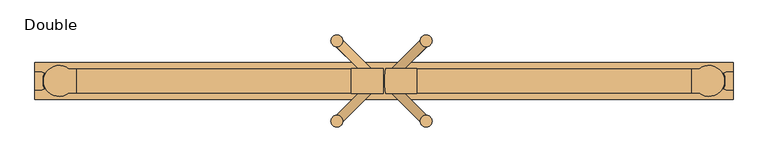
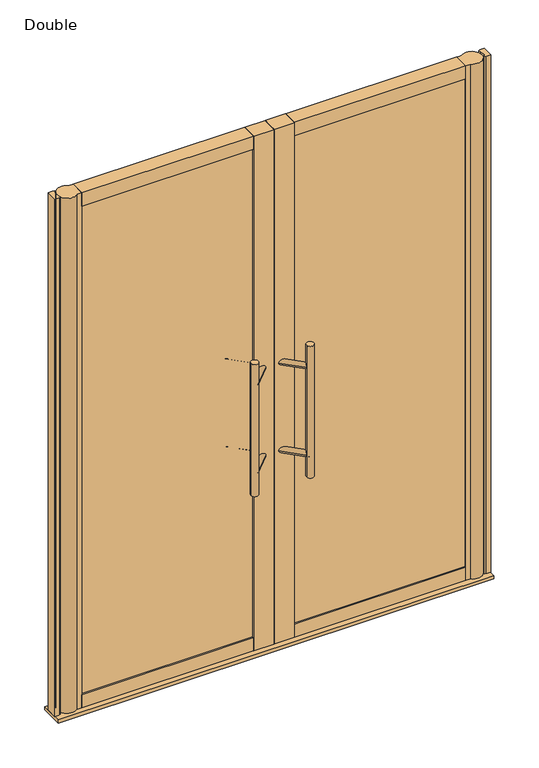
"""IFC4 building model written with IfcOpenShell, lengths in millimetres: door geometry, SMARTS_SmartWallCW : Double."""

from ifc_helpers import new_model, si_unit, point, frame, frame_2d, origin, origin_with_axes, place, context, project, spatial, polyline, circle_curve, ellipse_curve, trimmed, segment, composite_curve, outline, extrude, source, transform, mapped, element, save
from ifc_brep_helpers import plane_surface, cylinder_surface, advanced_brep


def double_5052222a(model_context):
    return source(origin(), model_context, "Body", "SolidModel", [
        advanced_brep(
        [(-134.8682666, -98.8621855, 1295.0), (-117.1905971, -116.539855, 1295.0), (-34.1055503, -33.4548082, 1295.0), (-69.4608894, -33.4548082, 1295.0)],
        [
            (0, 1, circle_curve(frame((-126.0294319, -107.7010203, 1295.0), z_axis=(-0.707106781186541, -0.7071067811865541, 0.0), x_axis=(0.7071067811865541, -0.707106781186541, 0.0)), 12.5)),
            (1, 0, circle_curve(frame((-126.0294319, -107.7010203, 1295.0), z_axis=(-0.707106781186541, -0.7071067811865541, 0.0), x_axis=(0.7071067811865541, -0.707106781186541, 0.0)), 12.5)),
            (1, 2),
            (2, 3, ellipse_curve(frame((-51.7832198, -33.4548082, 1295.0), z_axis=(0.0, -1.0, 0.0), x_axis=(1.0, 0.0, 0.0)), 17.6776695, 12.5)),
            (3, 0),
            (3, 2, ellipse_curve(frame((-51.7832198, -33.4548082, 1295.0), z_axis=(0.0, -1.0, 0.0), x_axis=(1.0, 0.0, 0.0)), 17.6776695, 12.5)),
        ],
        [
            plane_surface(frame((-126.0294319, -107.7010203, 1095.0), z_axis=(-0.707106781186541, -0.7071067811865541, 0.0), x_axis=(0.0, 0.0, 1.0))),
            cylinder_surface(frame((-37.6410842, -19.3126726, 1295.0), z_axis=(0.707106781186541, 0.7071067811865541, 0.0), x_axis=(0.7071067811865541, -0.707106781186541, 0.0)), 12.5),
            plane_surface(frame((-27.4315037, -33.4548082, 875.0), z_axis=(0.0, 1.0, 0.0), x_axis=(1.0, 0.0, 0.0))),
        ],
        [
            (0, [[1, 2]]),
            (1, [[-2, 3, 4, 5]]),
            (1, [[-1, -5, 6, -3]]),
            (2, [[-4, -6]]),
        ],
    ),
        advanced_brep(
        [(-117.1905971, 116.6302385, 1295.0), (-134.8682666, 98.952569, 1295.0), (-34.1055503, 33.5451918, 1295.0), (-69.4608894, 33.5451918, 1295.0)],
        [
            (0, 1, circle_curve(frame((-126.0294319, 107.7914038, 1295.0), z_axis=(-0.7071067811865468, 0.7071067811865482, 0.0), x_axis=(-0.7071067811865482, -0.7071067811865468, 0.0)), 12.5)),
            (1, 0, circle_curve(frame((-126.0294319, 107.7914038, 1295.0), z_axis=(-0.7071067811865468, 0.7071067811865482, 0.0), x_axis=(-0.7071067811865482, -0.7071067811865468, 0.0)), 12.5)),
            (0, 2),
            (2, 3, ellipse_curve(frame((-51.7832198, 33.5451918, 1295.0), z_axis=(0.0, 1.0, 0.0), x_axis=(1.0, 0.0, 0.0)), 17.6776695, 12.5)),
            (3, 1),
            (3, 2, ellipse_curve(frame((-51.7832198, 33.5451918, 1295.0), z_axis=(0.0, 1.0, 0.0), x_axis=(1.0, 0.0, 0.0)), 17.6776695, 12.5)),
        ],
        [
            plane_surface(frame((-126.0294319, 107.7914038, 1095.0), z_axis=(-0.7071067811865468, 0.7071067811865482, 0.0), x_axis=(0.0, 0.0, 1.0))),
            cylinder_surface(frame((-37.6410842, 19.4030561, 1295.0), z_axis=(0.7071067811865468, -0.7071067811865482, 0.0), x_axis=(-0.7071067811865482, -0.7071067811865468, 0.0)), 12.5),
            plane_surface(frame((-23.8736253, 33.5451918, 872.7211233), z_axis=(0.0, -1.0, 0.0), x_axis=(-1.0, 0.0, 0.0))),
        ],
        [
            (0, [[1, 2]]),
            (1, [[-1, 3, 4, 5]]),
            (1, [[-2, -5, 6, -3]]),
            (2, [[-4, -6]]),
        ],
    ),
        advanced_brep(
        [(-117.1905971, 116.6302385, 895.0), (-134.8682666, 98.952569, 895.0), (-34.1055503, 33.5451918, 895.0), (-69.4608894, 33.5451918, 895.0)],
        [
            (0, 1, circle_curve(frame((-126.0294319, 107.7914038, 895.0), z_axis=(-0.7071067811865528, 0.7071067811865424, 0.0), x_axis=(-0.7071067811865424, -0.7071067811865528, 0.0)), 12.5)),
            (1, 0, circle_curve(frame((-126.0294319, 107.7914038, 895.0), z_axis=(-0.7071067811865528, 0.7071067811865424, 0.0), x_axis=(-0.7071067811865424, -0.7071067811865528, 0.0)), 12.5)),
            (0, 2),
            (2, 3, ellipse_curve(frame((-51.7832198, 33.5451918, 895.0), z_axis=(0.0, 1.0, 0.0), x_axis=(1.0, 0.0, 0.0)), 17.6776695, 12.5)),
            (3, 1),
            (3, 2, ellipse_curve(frame((-51.7832198, 33.5451918, 895.0), z_axis=(0.0, 1.0, 0.0), x_axis=(1.0, 0.0, 0.0)), 17.6776695, 12.5)),
        ],
        [
            plane_surface(frame((-126.0294319, 107.7914038, 695.0), z_axis=(-0.7071067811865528, 0.7071067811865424, 0.0), x_axis=(0.0, 0.0, 1.0))),
            cylinder_surface(frame((-37.6410842, 19.4030561, 895.0), z_axis=(0.7071067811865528, -0.7071067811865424, 0.0), x_axis=(-0.7071067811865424, -0.7071067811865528, 0.0)), 12.5),
            plane_surface(frame((-23.8736253, 33.5451918, 872.7211233), z_axis=(0.0, -1.0, 0.0), x_axis=(-1.0, 0.0, 0.0))),
        ],
        [
            (0, [[1, 2]]),
            (1, [[-1, 3, 4, 5]]),
            (1, [[-2, -5, 6, -3]]),
            (2, [[-4, -6]]),
        ],
    ),
        advanced_brep(
        [(-134.8682666, -98.8621855, 895.0), (-117.1905971, -116.539855, 895.0), (-34.1055503, -33.4548082, 895.0), (-69.4608894, -33.4548082, 895.0)],
        [
            (0, 1, circle_curve(frame((-126.0294319, -107.7010203, 895.0), z_axis=(-0.707106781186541, -0.707106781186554, 0.0), x_axis=(0.707106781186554, -0.707106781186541, 0.0)), 12.5)),
            (1, 0, circle_curve(frame((-126.0294319, -107.7010203, 895.0), z_axis=(-0.707106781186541, -0.707106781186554, 0.0), x_axis=(0.707106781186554, -0.707106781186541, 0.0)), 12.5)),
            (1, 2),
            (2, 3, ellipse_curve(frame((-51.7832198, -33.4548082, 895.0), z_axis=(0.0, -1.0, 0.0), x_axis=(1.0, 0.0, 0.0)), 17.6776695, 12.5)),
            (3, 0),
            (3, 2, ellipse_curve(frame((-51.7832198, -33.4548082, 895.0), z_axis=(0.0, -1.0, 0.0), x_axis=(1.0, 0.0, 0.0)), 17.6776695, 12.5)),
        ],
        [
            plane_surface(frame((-126.0294319, -107.7010203, 695.0), z_axis=(-0.707106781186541, -0.707106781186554, 0.0), x_axis=(0.0, 0.0, 1.0))),
            cylinder_surface(frame((-37.6410842, -19.3126726, 895.0), z_axis=(0.707106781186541, 0.707106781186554, 0.0), x_axis=(0.707106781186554, -0.707106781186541, 0.0)), 12.5),
            plane_surface(frame((-27.4315037, -33.4548082, 875.0), z_axis=(0.0, 1.0, 0.0), x_axis=(1.0, 0.0, 0.0))),
        ],
        [
            (0, [[1, 2]]),
            (1, [[-2, 3, 4, 5]]),
            (1, [[-1, -5, 6, -3]]),
            (2, [[-4, -6]]),
        ],
    ),
        extrude(outline(composite_curve([segment(trimmed(circle_curve(frame_2d((-126.7832198, 108.5451918)), 16.0), [point((-110.7832198, 108.5451918))], [point((-142.7832198, 108.5451918))], False, "CARTESIAN"), True, "CONTINUOUS"), segment(trimmed(circle_curve(frame_2d((-126.7832198, 108.5451918)), 16.0), [point((-142.7832198, 108.5451918))], [point((-110.7832198, 108.5451918))], False, "CARTESIAN"), True, "CONTINUOUS")], self_intersect=False)), frame((0.0, 0.0, 795.0), z_axis=(0.0, 0.0, 1.0), x_axis=(1.0, 0.0, 0.0)), (0.0, 0.0, 1.0), 600.0),
        extrude(outline(composite_curve([segment(trimmed(circle_curve(frame_2d((-126.7832198, -108.4548082)), 16.0), [point((-110.7832198, -108.4548082))], [point((-142.7832198, -108.4548082))], False, "CARTESIAN"), True, "CONTINUOUS"), segment(trimmed(circle_curve(frame_2d((-126.7832198, -108.4548082)), 16.0), [point((-142.7832198, -108.4548082))], [point((-110.7832198, -108.4548082))], False, "CARTESIAN"), True, "CONTINUOUS")], self_intersect=False)), frame((0.0, 0.0, 795.0), z_axis=(0.0, 0.0, 1.0), x_axis=(1.0, 0.0, 0.0)), (0.0, 0.0, 1.0), 600.0),
        advanced_brep(
        [(121.3006865, -98.8621855, 1295.0), (103.623017, -116.539855, 1295.0), (55.8933093, -33.4548082, 1295.0), (20.5379702, -33.4548082, 1295.0)],
        [
            (0, 1, circle_curve(frame((112.4618518, -107.7010203, 1295.0), z_axis=(0.7071067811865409, -0.7071067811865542, 0.0), x_axis=(-0.7071067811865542, -0.7071067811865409, 0.0)), 12.5)),
            (1, 0, circle_curve(frame((112.4618518, -107.7010203, 1295.0), z_axis=(0.7071067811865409, -0.7071067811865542, 0.0), x_axis=(-0.7071067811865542, -0.7071067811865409, 0.0)), 12.5)),
            (0, 2),
            (2, 3, ellipse_curve(frame((38.2156397, -33.4548082, 1295.0), z_axis=(0.0, -1.0, 0.0), x_axis=(-1.0, 0.0, 0.0)), 17.6776695, 12.5)),
            (3, 1),
            (3, 2, ellipse_curve(frame((38.2156397, -33.4548082, 1295.0), z_axis=(0.0, -1.0, 0.0), x_axis=(-1.0, 0.0, 0.0)), 17.6776695, 12.5)),
        ],
        [
            plane_surface(frame((112.4618518, -107.7010203, 1095.0), z_axis=(0.7071067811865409, -0.7071067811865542, 0.0), x_axis=(0.0, 0.0, 1.0))),
            cylinder_surface(frame((24.0735041, -19.3126726, 1295.0), z_axis=(-0.7071067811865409, 0.7071067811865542, 0.0), x_axis=(-0.7071067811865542, -0.7071067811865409, 0.0)), 12.5),
            plane_surface(frame((13.8639236, -33.4548082, 875.0), z_axis=(0.0, 1.0, 0.0), x_axis=(-1.0, 0.0, 0.0))),
        ],
        [
            (0, [[1, 2]]),
            (1, [[3, 4, 5, -1]]),
            (1, [[-5, 6, -3, -2]]),
            (2, [[-6, -4]]),
        ],
    ),
        advanced_brep(
        [(103.623017, 116.6302385, 1295.0), (121.3006865, 98.952569, 1295.0), (55.8933093, 33.5451918, 1295.0), (20.5379702, 33.5451918, 1295.0)],
        [
            (0, 1, circle_curve(frame((112.4618518, 107.7914038, 1295.0), z_axis=(0.7071067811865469, 0.7071067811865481, 0.0), x_axis=(0.7071067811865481, -0.7071067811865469, 0.0)), 12.5)),
            (1, 0, circle_curve(frame((112.4618518, 107.7914038, 1295.0), z_axis=(0.7071067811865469, 0.7071067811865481, 0.0), x_axis=(0.7071067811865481, -0.7071067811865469, 0.0)), 12.5)),
            (1, 2),
            (2, 3, ellipse_curve(frame((38.2156397, 33.5451918, 1295.0), z_axis=(0.0, 1.0, 0.0), x_axis=(-1.0, 0.0, 0.0)), 17.6776695, 12.5)),
            (3, 0),
            (3, 2, ellipse_curve(frame((38.2156397, 33.5451918, 1295.0), z_axis=(0.0, 1.0, 0.0), x_axis=(-1.0, 0.0, 0.0)), 17.6776695, 12.5)),
        ],
        [
            plane_surface(frame((112.4618518, 107.7914038, 1095.0), z_axis=(0.7071067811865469, 0.7071067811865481, 0.0), x_axis=(0.0, 0.0, 1.0))),
            cylinder_surface(frame((24.0735041, 19.4030561, 1295.0), z_axis=(-0.7071067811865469, -0.7071067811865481, 0.0), x_axis=(0.7071067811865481, -0.7071067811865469, 0.0)), 12.5),
            plane_surface(frame((10.3060452, 33.5451918, 872.7211233), z_axis=(0.0, -1.0, 0.0), x_axis=(1.0, 0.0, 0.0))),
        ],
        [
            (0, [[1, 2]]),
            (1, [[3, 4, 5, -2]]),
            (1, [[-5, 6, -3, -1]]),
            (2, [[-6, -4]]),
        ],
    ),
        advanced_brep(
        [(103.623017, 116.6302385, 895.0), (121.3006865, 98.952569, 895.0), (55.8933093, 33.5451918, 895.0), (20.5379702, 33.5451918, 895.0)],
        [
            (0, 1, circle_curve(frame((112.4618518, 107.7914038, 895.0), z_axis=(0.7071067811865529, 0.7071067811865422, 0.0), x_axis=(0.7071067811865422, -0.7071067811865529, 0.0)), 12.5)),
            (1, 0, circle_curve(frame((112.4618518, 107.7914038, 895.0), z_axis=(0.7071067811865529, 0.7071067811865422, 0.0), x_axis=(0.7071067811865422, -0.7071067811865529, 0.0)), 12.5)),
            (1, 2),
            (2, 3, ellipse_curve(frame((38.2156397, 33.5451918, 895.0), z_axis=(0.0, 1.0, 0.0), x_axis=(-1.0, 0.0, 0.0)), 17.6776695, 12.5)),
            (3, 0),
            (3, 2, ellipse_curve(frame((38.2156397, 33.5451918, 895.0), z_axis=(0.0, 1.0, 0.0), x_axis=(-1.0, 0.0, 0.0)), 17.6776695, 12.5)),
        ],
        [
            plane_surface(frame((112.4618518, 107.7914038, 695.0), z_axis=(0.7071067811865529, 0.7071067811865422, 0.0), x_axis=(0.0, 0.0, 1.0))),
            cylinder_surface(frame((24.0735041, 19.4030561, 895.0), z_axis=(-0.7071067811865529, -0.7071067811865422, 0.0), x_axis=(0.7071067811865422, -0.7071067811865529, 0.0)), 12.5),
            plane_surface(frame((10.3060452, 33.5451918, 872.7211233), z_axis=(0.0, -1.0, 0.0), x_axis=(1.0, 0.0, 0.0))),
        ],
        [
            (0, [[1, 2]]),
            (1, [[3, 4, 5, -2]]),
            (1, [[-5, 6, -3, -1]]),
            (2, [[-6, -4]]),
        ],
    ),
        advanced_brep(
        [(121.3006865, -98.8621855, 895.0), (103.623017, -116.539855, 895.0), (55.8933093, -33.4548082, 895.0), (20.5379702, -33.4548082, 895.0)],
        [
            (0, 1, circle_curve(frame((112.4618518, -107.7010203, 895.0), z_axis=(0.7071067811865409, -0.7071067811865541, 0.0), x_axis=(-0.7071067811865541, -0.7071067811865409, 0.0)), 12.5)),
            (1, 0, circle_curve(frame((112.4618518, -107.7010203, 895.0), z_axis=(0.7071067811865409, -0.7071067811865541, 0.0), x_axis=(-0.7071067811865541, -0.7071067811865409, 0.0)), 12.5)),
            (0, 2),
            (2, 3, ellipse_curve(frame((38.2156397, -33.4548082, 895.0), z_axis=(0.0, -1.0, 0.0), x_axis=(-1.0, 0.0, 0.0)), 17.6776695, 12.5)),
            (3, 1),
            (3, 2, ellipse_curve(frame((38.2156397, -33.4548082, 895.0), z_axis=(0.0, -1.0, 0.0), x_axis=(-1.0, 0.0, 0.0)), 17.6776695, 12.5)),
        ],
        [
            plane_surface(frame((112.4618518, -107.7010203, 695.0), z_axis=(0.7071067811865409, -0.7071067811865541, 0.0), x_axis=(0.0, 0.0, 1.0))),
            cylinder_surface(frame((24.0735041, -19.3126726, 895.0), z_axis=(-0.7071067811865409, 0.7071067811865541, 0.0), x_axis=(-0.7071067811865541, -0.7071067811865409, 0.0)), 12.5),
            plane_surface(frame((13.8639236, -33.4548082, 875.0), z_axis=(0.0, 1.0, 0.0), x_axis=(-1.0, 0.0, 0.0))),
        ],
        [
            (0, [[1, 2]]),
            (1, [[3, 4, 5, -1]]),
            (1, [[-5, 6, -3, -2]]),
            (2, [[-6, -4]]),
        ],
    ),
        extrude(outline(composite_curve([segment(trimmed(circle_curve(frame_2d((113.2156397, 108.5451918)), 16.0), [point((97.2156397, 108.5451918))], [point((129.2156397, 108.5451918))], False, "CARTESIAN"), True, "CONTINUOUS"), segment(trimmed(circle_curve(frame_2d((113.2156397, 108.5451918)), 16.0), [point((129.2156397, 108.5451918))], [point((97.2156397, 108.5451918))], False, "CARTESIAN"), True, "CONTINUOUS")], self_intersect=False)), frame((0.0, 0.0, 795.0), z_axis=(0.0, 0.0, 1.0), x_axis=(1.0, 0.0, 0.0)), (0.0, 0.0, 1.0), 600.0),
        extrude(outline(composite_curve([segment(trimmed(circle_curve(frame_2d((113.2156397, -108.4548082)), 16.0), [point((97.2156397, -108.4548082))], [point((129.2156397, -108.4548082))], False, "CARTESIAN"), True, "CONTINUOUS"), segment(trimmed(circle_curve(frame_2d((113.2156397, -108.4548082)), 16.0), [point((129.2156397, -108.4548082))], [point((97.2156397, -108.4548082))], False, "CARTESIAN"), True, "CONTINUOUS")], self_intersect=False)), frame((0.0, 0.0, 795.0), z_axis=(0.0, 0.0, 1.0), x_axis=(1.0, 0.0, 0.0)), (0.0, 0.0, 1.0), 600.0),
        extrude(outline(polyline([(-939.1595001, -24.49833), (-939.1595001, 24.50167), (-921.3504982, 24.50167), (-914.0660793, 21.4096176), (-918.129683, 11.8363671), (-918.129683, -11.8330271), (-914.0660793, -21.4062776), (-921.3504982, -24.49833), (-939.1595001, -24.49833)])), frame((0.0, 0.0, 15.0), z_axis=(0.0, 0.0, 1.0), x_axis=(1.0, 0.0, 0.0)), (0.0, 0.0, 1.0), 2358.5),
        extrude(outline(polyline([(939.1595001, 24.50167), (939.1595001, -24.49833), (921.3504982, -24.49833), (914.0660793, -21.4062776), (918.129683, -11.8330271), (918.129683, 11.8363671), (914.0660793, 21.4096176), (921.3504982, 24.50167), (939.1595001, 24.50167)])), origin_with_axes(), (0.0, 0.0, 1.0), 2373.5),
        extrude(outline(polyline([(-88.2156397, -26.2428114), (-828.2009533, -26.2428114), (-828.2009533, 1.7571886), (-88.2156397, 1.7571886), (-88.2156397, -26.2428114)])), frame((0.0, 0.0, 81.0), z_axis=(0.0, 0.0, 1.0), x_axis=(1.0, 0.0, 0.0)), (0.0, 0.0, 1.0), 2226.5),
        extrude(outline(polyline([(828.2009533, -26.2428114), (88.2, -26.2428114), (88.2, 1.7571886), (828.2009533, 1.7571886), (828.2009533, -26.2428114)])), frame((0.0, 0.0, 81.0), z_axis=(0.0, 0.0, 1.0), x_axis=(1.0, 0.0, 0.0)), (0.0, 0.0, 1.0), 2226.5),
        extrude(outline(composite_curve([segment(polyline([(-848.1043345, 32.264458), (-828.1622626, 32.264458), (-828.1622626, -32.4668875), (-848.3488684, -32.5314047)]), True, "CONTINUOUS"), segment(trimmed(circle_curve(frame_2d((-874.1611251, -0.0355987)), 41.5), [point((-848.3488684, -32.5314047))], [point((-848.1043345, 32.264458))], False, "CARTESIAN"), True, "CONTINUOUS")], self_intersect=False)), frame((0.0, 0.0, 21.0), z_axis=(0.0, 0.0, 1.0), x_axis=(1.0, 0.0, 0.0)), (0.0, 0.0, 1.0), 2346.5),
        extrude(outline(polyline([(4.3645091, -33.4548082), (2.2184235, -13.0361673), (2.2184235, 13.1265491), (4.3645091, 33.5451901), (88.2156397, 33.5451901), (88.2156397, -33.4548082), (4.3645091, -33.4548082)])), frame((0.0, 0.0, 21.0), z_axis=(0.0, 0.0, 1.0), x_axis=(1.0, 0.0, 0.0)), (0.0, 0.0, 1.0), 2346.5),
        extrude(outline(polyline([(-1.7832198, -33.4548082), (-87.7820808, -33.4548082), (-87.7820808, 33.5451901), (-1.7832198, 33.5451901), (-1.7832198, -33.4548082)])), frame((0.0, 0.0, 21.0), z_axis=(0.0, 0.0, 1.0), x_axis=(1.0, 0.0, 0.0)), (0.0, 0.0, 1.0), 2346.5),
        extrude(outline(composite_curve([segment(trimmed(circle_curve(frame_2d((874.1611251, -0.0355987)), 41.5), [point((848.1043345, 32.264458))], [point((848.3488684, -32.5314047))], False, "CARTESIAN"), True, "CONTINUOUS"), segment(polyline([(848.3488684, -32.5314047), (828.1622626, -32.4668875), (828.1622626, 32.264458), (848.1043345, 32.264458)]), True, "CONTINUOUS")], self_intersect=False)), frame((0.0, 0.0, 21.0), z_axis=(0.0, 0.0, 1.0), x_axis=(1.0, 0.0, 0.0)), (0.0, 0.0, 1.0), 2346.5),
        extrude(outline(polyline([(-939.1009533, 50.0), (939.1009533, 50.0), (939.1009533, -49.9975), (-939.1009533, -49.9975), (-939.1009533, 50.0)])), origin_with_axes(), (0.0, 0.0, 1.0), 15.0),
        extrude(outline(polyline([(-87.7820808, -32.49875), (-828.2009533, -32.49875), (-828.2009533, 32.50125), (-87.7820808, 32.50125), (-87.7820808, -32.49875)])), frame((0.0, 0.0, 21.0), z_axis=(0.0, 0.0, 1.0), x_axis=(1.0, 0.0, 0.0)), (0.0, 0.0, 1.0), 60.0),
        extrude(outline(polyline([(-88.2156397, -32.49875), (-828.1622626, -32.49875), (-828.1622626, 32.50125), (-88.2156397, 32.50125), (-88.2156397, -32.49875)])), frame((0.0, 0.0, 2307.5), z_axis=(0.0, 0.0, 1.0), x_axis=(1.0, 0.0, 0.0)), (0.0, 0.0, 1.0), 60.0),
        extrude(outline(polyline([(88.2, 32.50125), (828.2009533, 32.50125), (828.2009533, -32.49875), (88.2, -32.49875), (88.2, 32.50125)])), frame((0.0, 0.0, 21.0), z_axis=(0.0, 0.0, 1.0), x_axis=(1.0, 0.0, 0.0)), (0.0, 0.0, 1.0), 60.0),
        extrude(outline(polyline([(88.2, 32.50125), (828.2009533, 32.50125), (828.2009533, -32.49875), (88.2, -32.49875), (88.2, 32.50125)])), frame((0.0, 0.0, 2307.5), z_axis=(0.0, 0.0, 1.0), x_axis=(1.0, 0.0, 0.0)), (0.0, 0.0, 1.0), 60.0),
    ])


if __name__ == "__main__":
    model = new_model("IFC4")
    model_context = context("Model", 3, world=origin())
    ifc_project = project(units=[si_unit("LENGTHUNIT", "METRE", prefix="MILLI")], contexts=[model_context])
    site = spatial("IfcSite", under=ifc_project)
    building = spatial("IfcBuilding", under=site)
    placement = place(None, origin())
    double_shape = double_5052222a(model_context)
    element("IfcDoor", 1, ObjectType="SMARTS_SmartWallCW : Double", at=placement, inside=building, context=model_context, shape_type="MappedRepresentation", body=[
        mapped(double_shape, transform((0.0, 0.0, 0.0), x_axis=(1.0, 0.0, 0.0), y_axis=(0.0, 1.0, 0.0), z_axis=(0.0, 0.0, 1.0))),
    ])
    save(model, "model.ifc")
